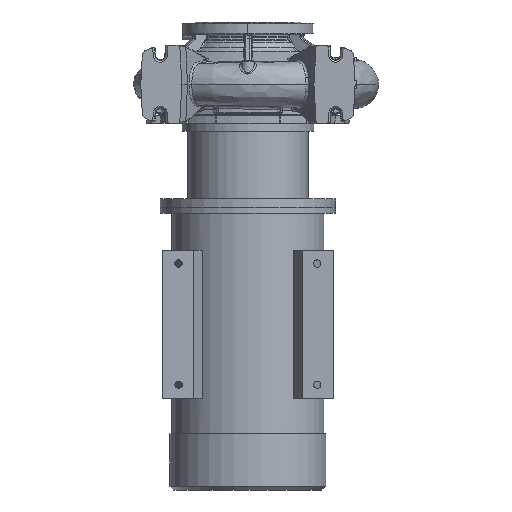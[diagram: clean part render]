
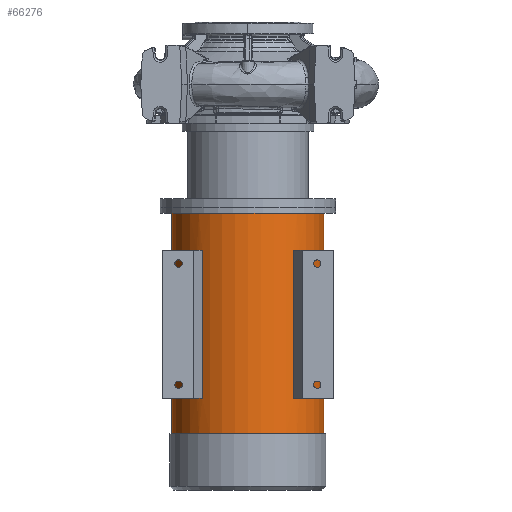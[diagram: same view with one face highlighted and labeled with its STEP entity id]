
A CAD part, front view. The second image highlights one B-rep face of the part: STEP entity #66276.
In plain terms, the highlighted cylindrical face has radius 195 mm (diameter 390 mm), a partial arc.
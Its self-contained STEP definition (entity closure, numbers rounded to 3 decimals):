
#917 = EDGE_LOOP ( 'NONE', ( #46614, #56061, #81681, #18638 ) ) ;
#3346 = EDGE_CURVE ( 'NONE', #5506, #40860, #91943, .T. ) ;
#5506 = VERTEX_POINT ( 'NONE', #57644 ) ;
#5523 = DIRECTION ( 'NONE',  ( 0., 0., -1. ) ) ;
#6207 = DIRECTION ( 'NONE',  ( -1., 0., 0. ) ) ;
#9228 = VERTEX_POINT ( 'NONE', #57002 ) ;
#9380 = DIRECTION ( 'NONE',  ( -1., 0., 0. ) ) ;
#13843 = CARTESIAN_POINT ( 'NONE',  ( 117.445, -155.665, -425.3 ) ) ;
#14443 = VECTOR ( 'NONE', #73285, 1000. ) ;
#14628 = VERTEX_POINT ( 'NONE', #22271 ) ;
#15266 = DIRECTION ( 'NONE',  ( 0., 0., 1. ) ) ;
#15320 = DIRECTION ( 'NONE',  ( -1., 0., 0. ) ) ;
#16644 = EDGE_CURVE ( 'NONE', #18455, #14628, #95768, .T. ) ;
#16881 = DIRECTION ( 'NONE',  ( 0., 0., -1. ) ) ;
#17266 = CARTESIAN_POINT ( 'NONE',  ( -117.445, -155.665, -1040.8 ) ) ;
#17929 = LINE ( 'NONE', #32340, #52305 ) ;
#17979 = EDGE_CURVE ( 'NONE', #53990, #33941, #42770, .T. ) ;
#18455 = VERTEX_POINT ( 'NONE', #86265 ) ;
#18506 = LINE ( 'NONE', #67778, #36939 ) ;
#18638 = ORIENTED_EDGE ( 'NONE', *, *, #49926, .F. ) ;
#19036 = LINE ( 'NONE', #69527, #49823 ) ;
#21022 = ORIENTED_EDGE ( 'NONE', *, *, #49774, .T. ) ;
#21078 = ORIENTED_EDGE ( 'NONE', *, *, #3346, .F. ) ;
#22271 = CARTESIAN_POINT ( 'NONE',  ( 131.492, -143.996, -805.3 ) ) ;
#25114 = DIRECTION ( 'NONE',  ( 0., 0., -1. ) ) ;
#25623 = AXIS2_PLACEMENT_3D ( 'NONE', #80904, #95684, #9380 ) ;
#25786 = VERTEX_POINT ( 'NONE', #101579 ) ;
#27216 = FACE_BOUND ( 'NONE', #917, .T. ) ;
#28091 = AXIS2_PLACEMENT_3D ( 'NONE', #72935, #16881, #95611 ) ;
#28111 = CARTESIAN_POINT ( 'NONE',  ( -117.445, -155.665, -805.3 ) ) ;
#28369 = DIRECTION ( 'NONE',  ( -1., 0., 0. ) ) ;
#28416 = FACE_BOUND ( 'NONE', #51487, .T. ) ;
#29807 = AXIS2_PLACEMENT_3D ( 'NONE', #40658, #95627, #40303 ) ;
#31571 = DIRECTION ( 'NONE',  ( 0., 0., -1. ) ) ;
#32340 = CARTESIAN_POINT ( 'NONE',  ( 131.492, -143.996, -1040.8 ) ) ;
#32369 = LINE ( 'NONE', #101553, #79160 ) ;
#33941 = VERTEX_POINT ( 'NONE', #34014 ) ;
#34014 = CARTESIAN_POINT ( 'NONE',  ( -117.445, -155.665, -425.3 ) ) ;
#35138 = ORIENTED_EDGE ( 'NONE', *, *, #58927, .T. ) ;
#35550 = ORIENTED_EDGE ( 'NONE', *, *, #78542, .T. ) ;
#36939 = VECTOR ( 'NONE', #5523, 1000. ) ;
#37923 = VECTOR ( 'NONE', #96768, 1000. ) ;
#40303 = DIRECTION ( 'NONE',  ( 1., 0., 0. ) ) ;
#40658 = CARTESIAN_POINT ( 'NONE',  ( 0., 0., -805.3 ) ) ;
#40743 = ORIENTED_EDGE ( 'NONE', *, *, #16644, .F. ) ;
#40860 = VERTEX_POINT ( 'NONE', #68832 ) ;
#42770 = LINE ( 'NONE', #17266, #14443 ) ;
#45143 = DIRECTION ( 'NONE',  ( 0., 0., -1. ) ) ;
#45428 = ORIENTED_EDGE ( 'NONE', *, *, #99453, .T. ) ;
#45623 = CARTESIAN_POINT ( 'NONE',  ( -131.492, -143.996, -805.3 ) ) ;
#46614 = ORIENTED_EDGE ( 'NONE', *, *, #17979, .F. ) ;
#48191 = FACE_OUTER_BOUND ( 'NONE', #58695, .T. ) ;
#48460 = AXIS2_PLACEMENT_3D ( 'NONE', #77384, #84946, #6207 ) ;
#49338 = CARTESIAN_POINT ( 'NONE',  ( -131.492, -143.996, -1040.8 ) ) ;
#49774 = EDGE_CURVE ( 'NONE', #9228, #40860, #19036, .T. ) ;
#49823 = VECTOR ( 'NONE', #45143, 1000. ) ;
#49926 = EDGE_CURVE ( 'NONE', #33941, #25786, #71983, .T. ) ;
#51487 = EDGE_LOOP ( 'NONE', ( #40743, #35138, #81807, #35550 ) ) ;
#51743 = DIRECTION ( 'NONE',  ( 0., 0., -1. ) ) ;
#52075 = CIRCLE ( 'NONE', #58720, 195. ) ;
#52305 = VECTOR ( 'NONE', #25114, 1000. ) ;
#53990 = VERTEX_POINT ( 'NONE', #28111 ) ;
#55453 = ORIENTED_EDGE ( 'NONE', *, *, #88672, .F. ) ;
#55936 = AXIS2_PLACEMENT_3D ( 'NONE', #98864, #51743, #28369 ) ;
#56061 = ORIENTED_EDGE ( 'NONE', *, *, #84279, .T. ) ;
#57002 = CARTESIAN_POINT ( 'NONE',  ( -195., 0., -330.8 ) ) ;
#57644 = CARTESIAN_POINT ( 'NONE',  ( 195., 0., -896.8 ) ) ;
#58695 = EDGE_LOOP ( 'NONE', ( #55453, #45428, #21022, #21078 ) ) ;
#58720 = AXIS2_PLACEMENT_3D ( 'NONE', #77223, #93671, #15320 ) ;
#58927 = EDGE_CURVE ( 'NONE', #18455, #62463, #32369, .T. ) ;
#59382 = EDGE_CURVE ( 'NONE', #62463, #77686, #89006, .T. ) ;
#62463 = VERTEX_POINT ( 'NONE', #13843 ) ;
#62499 = DIRECTION ( 'NONE',  ( -1., 0., 0. ) ) ;
#63787 = LINE ( 'NONE', #49338, #37923 ) ;
#65359 = CYLINDRICAL_SURFACE ( 'NONE', #55936, 195. ) ;
#66276 = ADVANCED_FACE ( 'NONE', ( #48191, #28416, #27216 ), #65359, .T. ) ;
#67778 = CARTESIAN_POINT ( 'NONE',  ( 195., 0., -1040.8 ) ) ;
#68832 = CARTESIAN_POINT ( 'NONE',  ( -195., 0., -896.8 ) ) ;
#69527 = CARTESIAN_POINT ( 'NONE',  ( -195., 0., -1040.8 ) ) ;
#71330 = EDGE_CURVE ( 'NONE', #25786, #74796, #63787, .T. ) ;
#71983 = CIRCLE ( 'NONE', #28091, 195. ) ;
#72935 = CARTESIAN_POINT ( 'NONE',  ( 0., 0., -425.3 ) ) ;
#73285 = DIRECTION ( 'NONE',  ( 0., 0., 1. ) ) ;
#74796 = VERTEX_POINT ( 'NONE', #45623 ) ;
#77223 = CARTESIAN_POINT ( 'NONE',  ( 0., 0., -330.8 ) ) ;
#77384 = CARTESIAN_POINT ( 'NONE',  ( 0., 0., -425.3 ) ) ;
#77686 = VERTEX_POINT ( 'NONE', #83454 ) ;
#78542 = EDGE_CURVE ( 'NONE', #77686, #14628, #17929, .T. ) ;
#78707 = CARTESIAN_POINT ( 'NONE',  ( 0., 0., -896.8 ) ) ;
#79160 = VECTOR ( 'NONE', #15266, 1000. ) ;
#80904 = CARTESIAN_POINT ( 'NONE',  ( 0., 0., -805.3 ) ) ;
#81681 = ORIENTED_EDGE ( 'NONE', *, *, #71330, .F. ) ;
#81807 = ORIENTED_EDGE ( 'NONE', *, *, #59382, .T. ) ;
#83295 = CARTESIAN_POINT ( 'NONE',  ( 195., 0., -330.8 ) ) ;
#83454 = CARTESIAN_POINT ( 'NONE',  ( 131.492, -143.996, -425.3 ) ) ;
#84279 = EDGE_CURVE ( 'NONE', #53990, #74796, #99881, .T. ) ;
#84946 = DIRECTION ( 'NONE',  ( 0., 0., 1. ) ) ;
#86265 = CARTESIAN_POINT ( 'NONE',  ( 117.445, -155.665, -805.3 ) ) ;
#88672 = EDGE_CURVE ( 'NONE', #94775, #5506, #18506, .T. ) ;
#89006 = CIRCLE ( 'NONE', #48460, 195. ) ;
#91943 = CIRCLE ( 'NONE', #92623, 195. ) ;
#92623 = AXIS2_PLACEMENT_3D ( 'NONE', #78707, #31571, #62499 ) ;
#93671 = DIRECTION ( 'NONE',  ( 0., 0., -1. ) ) ;
#94775 = VERTEX_POINT ( 'NONE', #83295 ) ;
#95611 = DIRECTION ( 'NONE',  ( 1., 0., 0. ) ) ;
#95627 = DIRECTION ( 'NONE',  ( 0., 0., -1. ) ) ;
#95684 = DIRECTION ( 'NONE',  ( 0., 0., 1. ) ) ;
#95768 = CIRCLE ( 'NONE', #25623, 195. ) ;
#96768 = DIRECTION ( 'NONE',  ( 0., 0., -1. ) ) ;
#98864 = CARTESIAN_POINT ( 'NONE',  ( 0., 0., -1040.8 ) ) ;
#99453 = EDGE_CURVE ( 'NONE', #94775, #9228, #52075, .T. ) ;
#99881 = CIRCLE ( 'NONE', #29807, 195. ) ;
#101553 = CARTESIAN_POINT ( 'NONE',  ( 117.445, -155.665, -1040.8 ) ) ;
#101579 = CARTESIAN_POINT ( 'NONE',  ( -131.492, -143.996, -425.3 ) ) ;
